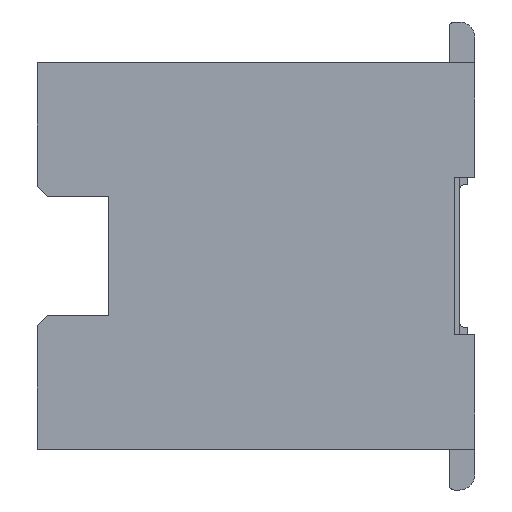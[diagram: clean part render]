
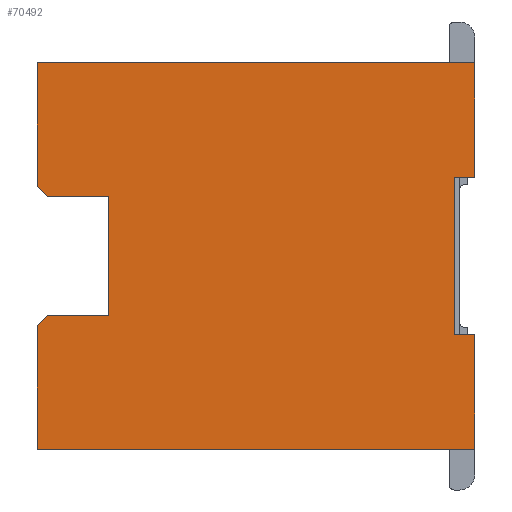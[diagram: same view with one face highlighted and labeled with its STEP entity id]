
A CAD part, left-side view. The second image highlights one B-rep face of the part: STEP entity #70492.
In plain terms, the highlighted planar face has unit normal (-1, 0, 0).
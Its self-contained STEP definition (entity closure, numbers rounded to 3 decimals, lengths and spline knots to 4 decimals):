
#1299=DIRECTION('',(0.,1.,0.));
#1300=VECTOR('',#1299,4.3);
#1301=CARTESIAN_POINT('',(0.,0.6,-0.4));
#1302=LINE('',#1301,#1300);
#1395=DIRECTION('',(0.,0.,-1.));
#1396=VECTOR('',#1395,1.215);
#1397=CARTESIAN_POINT('',(0.,4.9,-0.4));
#1398=LINE('',#1397,#1396);
#2631=DIRECTION('',(0.,0.,-1.));
#2632=VECTOR('',#2631,1.215);
#2633=CARTESIAN_POINT('',(0.,4.9,-2.985));
#2634=LINE('',#2633,#2632);
#2647=DIRECTION('',(0.,-1.,0.));
#2648=VECTOR('',#2647,4.3);
#2649=CARTESIAN_POINT('',(0.,4.9,-4.2));
#2650=LINE('',#2649,#2648);
#14471=DIRECTION('',(0.,0.,1.));
#14472=VECTOR('',#14471,1.54);
#14473=CARTESIAN_POINT('',(0.,0.8,-3.07));
#14474=LINE('',#14473,#14472);
#14575=DIRECTION('',(0.,-1.,0.));
#14576=VECTOR('',#14575,0.2);
#14577=CARTESIAN_POINT('',(0.,0.8,-1.53));
#14578=LINE('',#14577,#14576);
#14587=DIRECTION('',(0.,0.,1.));
#14588=VECTOR('',#14587,1.13);
#14589=CARTESIAN_POINT('',(0.,0.6,-1.53));
#14590=LINE('',#14589,#14588);
#23071=DIRECTION('',(0.,-1.,0.));
#23072=VECTOR('',#23071,0.2);
#23073=CARTESIAN_POINT('',(0.,0.8,-3.07));
#23074=LINE('',#23073,#23072);
#23075=DIRECTION('',(0.,0.,-1.));
#23076=VECTOR('',#23075,1.13);
#23077=CARTESIAN_POINT('',(0.,0.6,-3.07));
#23078=LINE('',#23077,#23076);
#23079=DIRECTION('',(0.,-0.707,0.707));
#23080=VECTOR('',#23079,0.1414);
#23081=CARTESIAN_POINT('',(0.,4.9,-2.985));
#23082=LINE('',#23081,#23080);
#23083=DIRECTION('',(0.,-1.,0.));
#23084=VECTOR('',#23083,0.6);
#23085=CARTESIAN_POINT('',(0.,4.8,-2.885));
#23086=LINE('',#23085,#23084);
#23087=DIRECTION('',(0.,0.,1.));
#23088=VECTOR('',#23087,1.17);
#23089=CARTESIAN_POINT('',(0.,4.2,-2.885));
#23090=LINE('',#23089,#23088);
#23091=DIRECTION('',(0.,1.,0.));
#23092=VECTOR('',#23091,0.6);
#23093=CARTESIAN_POINT('',(0.,4.2,-1.715));
#23094=LINE('',#23093,#23092);
#23095=DIRECTION('',(0.,0.707,0.707));
#23096=VECTOR('',#23095,0.1414);
#23097=CARTESIAN_POINT('',(0.,4.8,-1.715));
#23098=LINE('',#23097,#23096);
#32069=CARTESIAN_POINT('',(0.,4.9,-0.4));
#32071=VERTEX_POINT('',#32069);
#32079=CARTESIAN_POINT('',(0.,0.6,-0.4));
#32080=VERTEX_POINT('',#32079);
#32137=CARTESIAN_POINT('',(0.,4.9,-1.615));
#32138=VERTEX_POINT('',#32137);
#33852=CARTESIAN_POINT('',(0.,4.9,-4.2));
#33854=VERTEX_POINT('',#33852);
#33947=CARTESIAN_POINT('',(0.,4.9,-2.985));
#33948=VERTEX_POINT('',#33947);
#33953=CARTESIAN_POINT('',(0.,0.6,-4.2));
#33954=VERTEX_POINT('',#33953);
#36289=CARTESIAN_POINT('',(0.,0.6,-1.53));
#36290=VERTEX_POINT('',#36289);
#36291=CARTESIAN_POINT('',(0.,0.8,-1.53));
#36292=VERTEX_POINT('',#36291);
#36293=CARTESIAN_POINT('',(0.,0.8,-3.07));
#36294=VERTEX_POINT('',#36293);
#36295=CARTESIAN_POINT('',(0.,0.6,-3.07));
#36296=VERTEX_POINT('',#36295);
#36297=CARTESIAN_POINT('',(0.,4.8,-2.885));
#36298=VERTEX_POINT('',#36297);
#36299=CARTESIAN_POINT('',(0.,4.2,-2.885));
#36300=VERTEX_POINT('',#36299);
#36301=CARTESIAN_POINT('',(0.,4.2,-1.715));
#36302=VERTEX_POINT('',#36301);
#36303=CARTESIAN_POINT('',(0.,4.8,-1.715));
#36304=VERTEX_POINT('',#36303);
#70468=CARTESIAN_POINT('',(0.,2.75,-2.3));
#70469=DIRECTION('',(1.,0.,0.));
#70470=DIRECTION('',(0.,0.,1.));
#70471=AXIS2_PLACEMENT_3D('',#70468,#70469,#70470);
#70472=PLANE('',#70471);
#70473=ORIENTED_EDGE('',*,*,#42050,.F.);
#70474=ORIENTED_EDGE('',*,*,#59003,.F.);
#70475=ORIENTED_EDGE('',*,*,#58987,.F.);
#70476=ORIENTED_EDGE('',*,*,#58813,.F.);
#70478=ORIENTED_EDGE('',*,*,#70477,.T.);
#70479=ORIENTED_EDGE('',*,*,#58556,.T.);
#70480=ORIENTED_EDGE('',*,*,#43014,.F.);
#70481=ORIENTED_EDGE('',*,*,#42996,.F.);
#70483=ORIENTED_EDGE('',*,*,#70482,.T.);
#70485=ORIENTED_EDGE('',*,*,#70484,.T.);
#70486=ORIENTED_EDGE('',*,*,#70405,.T.);
#70487=ORIENTED_EDGE('',*,*,#70437,.T.);
#70488=ORIENTED_EDGE('',*,*,#70451,.T.);
#70489=ORIENTED_EDGE('',*,*,#42117,.F.);
#70490=EDGE_LOOP('',(#70473,#70474,#70475,#70476,#70478,#70479,#70480,#70481,
#70483,#70485,#70486,#70487,#70488,#70489));
#70491=FACE_OUTER_BOUND('',#70490,.F.);
#70492=ADVANCED_FACE('',(#70491),#70472,.F.);
#42050=EDGE_CURVE('',#32080,#32071,#1302,.T.);
#42117=EDGE_CURVE('',#32071,#32138,#1398,.T.);
#42996=EDGE_CURVE('',#33948,#33854,#2634,.T.);
#43014=EDGE_CURVE('',#33854,#33954,#2650,.T.);
#58556=EDGE_CURVE('',#36296,#33954,#23078,.T.);
#58813=EDGE_CURVE('',#36294,#36292,#14474,.T.);
#58987=EDGE_CURVE('',#36292,#36290,#14578,.T.);
#59003=EDGE_CURVE('',#36290,#32080,#14590,.T.);
#70405=EDGE_CURVE('',#36300,#36302,#23090,.T.);
#70437=EDGE_CURVE('',#36302,#36304,#23094,.T.);
#70451=EDGE_CURVE('',#36304,#32138,#23098,.T.);
#70477=EDGE_CURVE('',#36294,#36296,#23074,.T.);
#70482=EDGE_CURVE('',#33948,#36298,#23082,.T.);
#70484=EDGE_CURVE('',#36298,#36300,#23086,.T.);
